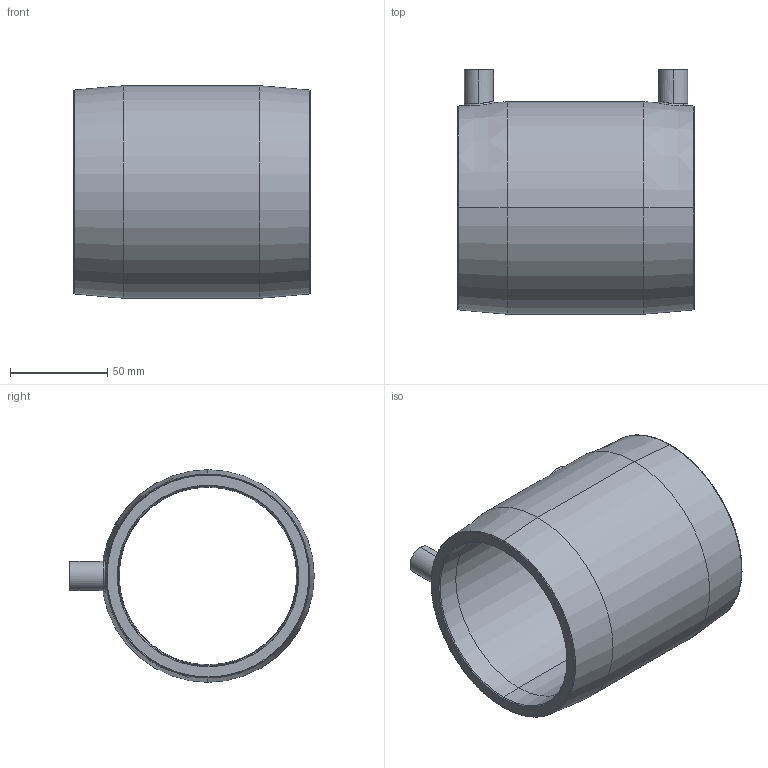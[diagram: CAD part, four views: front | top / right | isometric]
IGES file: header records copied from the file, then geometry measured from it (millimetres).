
Start section: SolidWorks IGES file using analytic representation for surfaces
Global section: file name: G:\Group\Marketing\Public\CAD Offering - Website\1. coupler\CBKHA90.IGS; native system: SolidWorks 2017; preprocessor: SolidWorks 2017; author: hwegrzynska; date: 180919.150727; units: millimetre
Bounding box: 122 x 125.94 x 109.5 mm (x, y, z)
Surface area: 83594.7 mm2 (no closed solid volume)
Topology: 0 solids, 0 shells, 70 faces, 1080 edges, 1080 vertices
Faces by surface type: revolution 44, bspline 26
